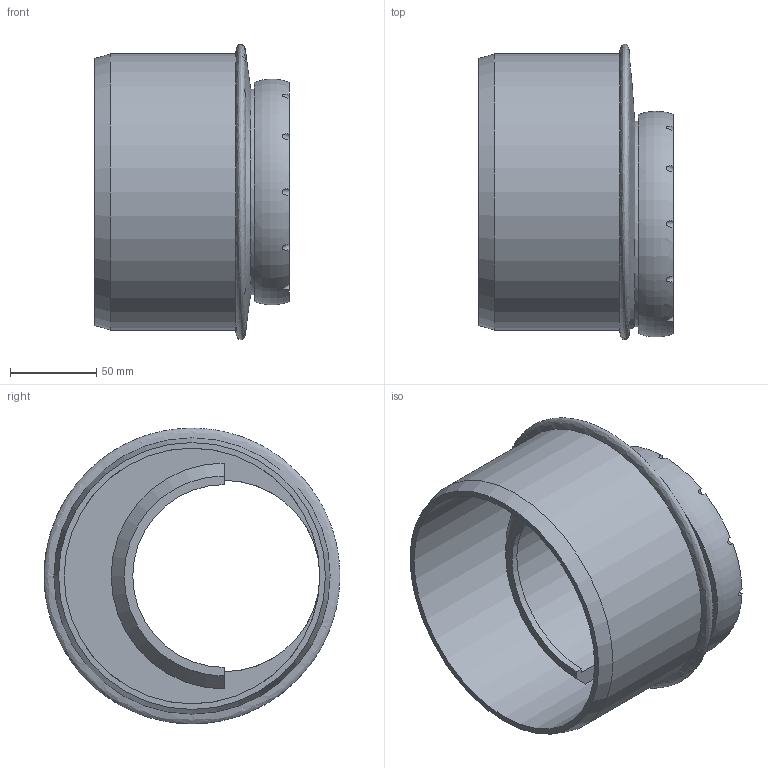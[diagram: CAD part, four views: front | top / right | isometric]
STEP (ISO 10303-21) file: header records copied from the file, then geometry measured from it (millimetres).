
FILE_DESCRIPTION(/* description */ (''),/* implementation_level */ '2;1');
FILE_NAME(/* name */ 'H:\Geberit-Teile\Export\Reduktion_ART\stp\393775.stp',/* time_stamp */ '2017-02-28T08:32:32+01:00',/* author */ ('seihe2'),/* organization */ (''),/* preprocessor_version */ 'ST-DEVELOPER v15.2',/* originating_system */ 'Autodesk Inventor 2014',/* authorisation */ '');
FILE_SCHEMA (('AUTOMOTIVE_DESIGN { 1 0 10303 214 3 1 1 }'));
Length unit declared in the file: millimetre
Products named in the file (1): 393775
Bounding box: 112.7 x 171.5 x 171.5 mm (x, y, z)
Volume: 416846.9 mm3; surface area: 152796.8 mm2
Topology: 1 solids, 1 shells, 36 faces, 92 edges, 61 vertices
Faces by surface type: cylinder 20, plane 11, cone 2, bspline 2, torus 1
Full cylindrical faces by diameter (mm): 111 x1, 111.3 x1, 119.2 x1, 121.5 x1, 148.25 x1, 160.25 x1
Entity records: 1560 total; most frequent: CARTESIAN_POINT 646, DIRECTION 190, ORIENTED_EDGE 162, AXIS2_PLACEMENT_3D 87, EDGE_CURVE 81, VERTEX_POINT 58, EDGE_LOOP 49, CIRCLE 39
